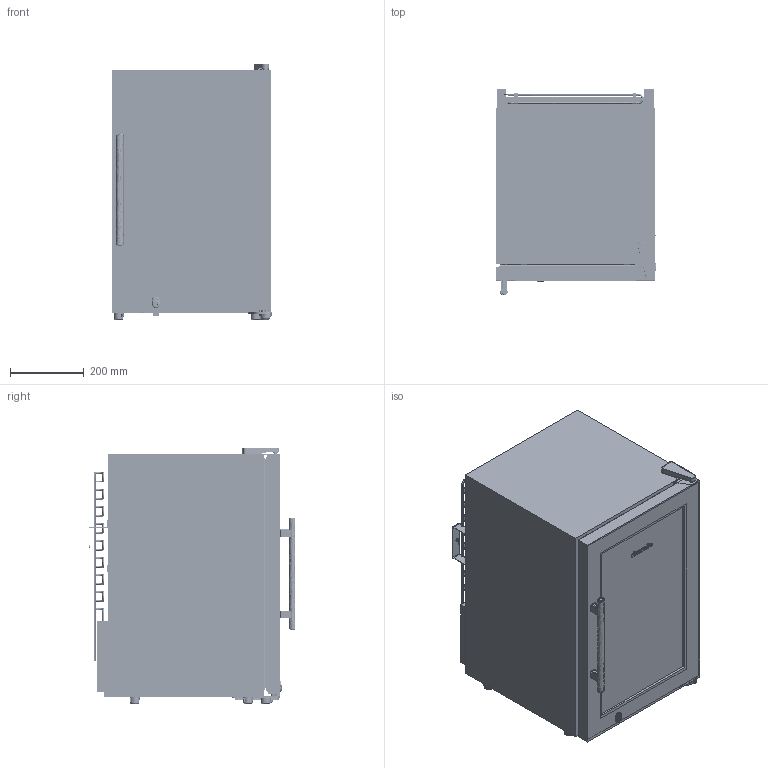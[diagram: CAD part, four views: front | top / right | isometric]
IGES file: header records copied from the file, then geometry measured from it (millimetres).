
Global section: file name: FS3-63-R.0_MOCKUP; native system: unknown; preprocessor: unknown; author: unknown; organization: unknown; date: 20260304.161017; units: millimetre
Bounding box: 433.48 x 558.24 x 691.75 mm (x, y, z)
Volume: 66157789 mm3; surface area: 7533329.4 mm2
Topology: 115 solids, 127 shells, 4011 faces, 9815 edges, 6091 vertices
Faces by surface type: bspline 4011
